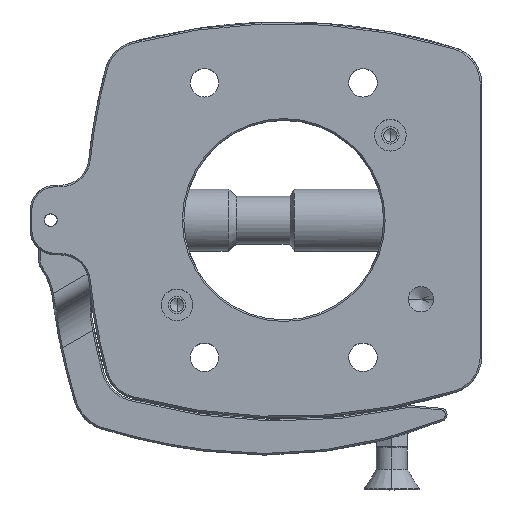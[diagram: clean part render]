
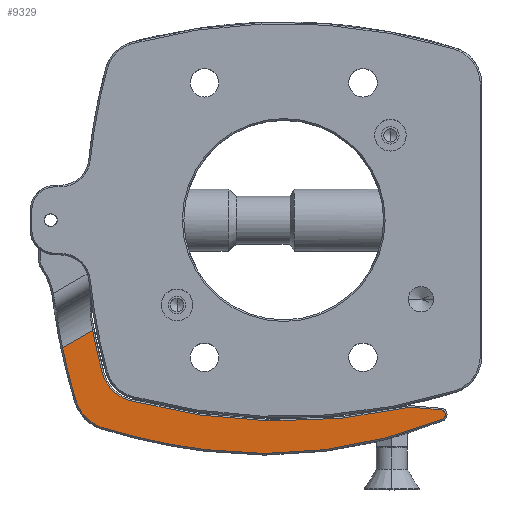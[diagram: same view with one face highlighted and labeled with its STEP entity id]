
A CAD part, top view. The second image highlights one B-rep face of the part: STEP entity #9329.
In plain terms, the highlighted planar face has unit normal (0, 0, 1).
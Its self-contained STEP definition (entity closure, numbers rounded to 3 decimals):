
#8 = AXIS2_PLACEMENT_3D ( 'NONE', #54001, #10019, #29381 ) ;
#195 = FACE_OUTER_BOUND ( 'NONE', #9519, .T. ) ;
#1321 = CIRCLE ( 'NONE', #61318, 184.9 ) ;
#1669 = VERTEX_POINT ( 'NONE', #40368 ) ;
#1713 = LINE ( 'NONE', #15668, #51859 ) ;
#2168 = AXIS2_PLACEMENT_3D ( 'NONE', #53838, #44481, #20276 ) ;
#3217 = DIRECTION ( 'NONE',  ( 0., 0., -1. ) ) ;
#3422 = DIRECTION ( 'NONE',  ( 1., 0., 0. ) ) ;
#3444 = CARTESIAN_POINT ( 'NONE',  ( 121.5, 0., 42.5 ) ) ;
#4270 = DIRECTION ( 'NONE',  ( -1., 0., 0. ) ) ;
#9285 = CIRCLE ( 'NONE', #28232, 12.3 ) ;
#9329 = ADVANCED_FACE ( 'NONE', ( #195 ), #34690, .F. ) ;
#9519 = EDGE_LOOP ( 'NONE', ( #58004, #58794, #50330, #27078, #26495, #16286, #13711, #41003, #10169, #13100 ) ) ;
#9697 = EDGE_CURVE ( 'NONE', #1669, #11575, #9285, .T. ) ;
#10019 = DIRECTION ( 'NONE',  ( 0., 0., -1. ) ) ;
#10169 = ORIENTED_EDGE ( 'NONE', *, *, #55073, .F. ) ;
#10244 = CARTESIAN_POINT ( 'NONE',  ( -45.326, -45.042, 42.5 ) ) ;
#10455 = DIRECTION ( 'NONE',  ( 0., 0., -1. ) ) ;
#10506 = CIRCLE ( 'NONE', #8, 149.5 ) ;
#11344 = EDGE_CURVE ( 'NONE', #11575, #13437, #42627, .T. ) ;
#11575 = VERTEX_POINT ( 'NONE', #44259 ) ;
#12372 = DIRECTION ( 'NONE',  ( -1., 0., 0. ) ) ;
#12592 = VERTEX_POINT ( 'NONE', #58815 ) ;
#13100 = ORIENTED_EDGE ( 'NONE', *, *, #39606, .T. ) ;
#13437 = VERTEX_POINT ( 'NONE', #41268 ) ;
#13711 = ORIENTED_EDGE ( 'NONE', *, *, #31922, .F. ) ;
#14505 = CIRCLE ( 'NONE', #57137, 195.5 ) ;
#14783 = VERTEX_POINT ( 'NONE', #21042 ) ;
#15668 = CARTESIAN_POINT ( 'NONE',  ( 46.478, 26.834, 42.5 ) ) ;
#16286 = ORIENTED_EDGE ( 'NONE', *, *, #59139, .F. ) ;
#17336 = EDGE_CURVE ( 'NONE', #52968, #1669, #1321, .T. ) ;
#17559 = CARTESIAN_POINT ( 'NONE',  ( -69.801, -40.3, 42.5 ) ) ;
#20276 = DIRECTION ( 'NONE',  ( -1., 0., 0. ) ) ;
#21042 = CARTESIAN_POINT ( 'NONE',  ( -25.075, -72.385, 42.5 ) ) ;
#21756 = CIRCLE ( 'NONE', #46895, 12.3 ) ;
#22533 = CARTESIAN_POINT ( 'NONE',  ( 121.5, 0., 42.5 ) ) ;
#23205 = DIRECTION ( 'NONE',  ( 0., 0., -1. ) ) ;
#23223 = VECTOR ( 'NONE', #46175, 1000. ) ;
#24607 = DIRECTION ( 'NONE',  ( -0.866, -0.5, 0. ) ) ;
#25423 = CARTESIAN_POINT ( 'NONE',  ( -65.424, -57.267, 42.5 ) ) ;
#25510 = VERTEX_POINT ( 'NONE', #17559 ) ;
#26495 = ORIENTED_EDGE ( 'NONE', *, *, #53383, .F. ) ;
#26755 = EDGE_CURVE ( 'NONE', #37458, #14783, #10506, .T. ) ;
#27078 = ORIENTED_EDGE ( 'NONE', *, *, #57103, .T. ) ;
#28232 = AXIS2_PLACEMENT_3D ( 'NONE', #10244, #10455, #58870 ) ;
#28835 = AXIS2_PLACEMENT_3D ( 'NONE', #3444, #32127, #12372 ) ;
#28881 = VERTEX_POINT ( 'NONE', #25423 ) ;
#29381 = DIRECTION ( 'NONE',  ( -1., 0., 0. ) ) ;
#31017 = DIRECTION ( 'NONE',  ( -1., 0., 0. ) ) ;
#31257 = CARTESIAN_POINT ( 'NONE',  ( -57.267, -65.424, 42.5 ) ) ;
#31491 = CARTESIAN_POINT ( 'NONE',  ( 40.053, -59.01, 42.5 ) ) ;
#31922 = EDGE_CURVE ( 'NONE', #14783, #57987, #14505, .T. ) ;
#32127 = DIRECTION ( 'NONE',  ( 0., 0., -1. ) ) ;
#32561 = CIRCLE ( 'NONE', #28835, 195.5 ) ;
#33379 = CARTESIAN_POINT ( 'NONE',  ( 0., 121.5, 42.5 ) ) ;
#33498 = DIRECTION ( 'NONE',  ( 0., 0., -1. ) ) ;
#34690 = PLANE ( 'NONE',  #2168 ) ;
#35172 = AXIS2_PLACEMENT_3D ( 'NONE', #22533, #3217, #3422 ) ;
#37005 = DIRECTION ( 'NONE',  ( 0., 0., -1. ) ) ;
#37458 = VERTEX_POINT ( 'NONE', #41598 ) ;
#39606 = EDGE_CURVE ( 'NONE', #12592, #52968, #46818, .T. ) ;
#39773 = CIRCLE ( 'NONE', #40621, 1.5 ) ;
#40368 = CARTESIAN_POINT ( 'NONE',  ( -48.556, -56.91, 42.5 ) ) ;
#40621 = AXIS2_PLACEMENT_3D ( 'NONE', #54152, #46069, #31017 ) ;
#41003 = ORIENTED_EDGE ( 'NONE', *, *, #26755, .F. ) ;
#41268 = CARTESIAN_POINT ( 'NONE',  ( -60.297, -34.812, 42.5 ) ) ;
#41598 = CARTESIAN_POINT ( 'NONE',  ( 50.099, -62.736, 42.5 ) ) ;
#42149 = CARTESIAN_POINT ( 'NONE',  ( -53.664, -53.664, 42.5 ) ) ;
#42627 = CIRCLE ( 'NONE', #35172, 185.1 ) ;
#43267 = DIRECTION ( 'NONE',  ( 1., 0., 0. ) ) ;
#44259 = CARTESIAN_POINT ( 'NONE',  ( -57.201, -48.248, 42.5 ) ) ;
#44481 = DIRECTION ( 'NONE',  ( 0., 0., -1. ) ) ;
#46069 = DIRECTION ( 'NONE',  ( 0., 0., -1. ) ) ;
#46175 = DIRECTION ( 'NONE',  ( -0.996, 0.087, 0. ) ) ;
#46818 = LINE ( 'NONE', #59324, #23223 ) ;
#46895 = AXIS2_PLACEMENT_3D ( 'NONE', #42149, #37005, #61239 ) ;
#50330 = ORIENTED_EDGE ( 'NONE', *, *, #11344, .T. ) ;
#51859 = VECTOR ( 'NONE', #24607, 1000. ) ;
#52968 = VERTEX_POINT ( 'NONE', #31491 ) ;
#53383 = EDGE_CURVE ( 'NONE', #28881, #25510, #32561, .T. ) ;
#53838 = CARTESIAN_POINT ( 'NONE',  ( 46.478, 26.834, 42.5 ) ) ;
#54001 = CARTESIAN_POINT ( 'NONE',  ( -5.9, 75.88, 42.5 ) ) ;
#54152 = CARTESIAN_POINT ( 'NONE',  ( 49.537, -61.345, 42.5 ) ) ;
#55073 = EDGE_CURVE ( 'NONE', #12592, #37458, #39773, .T. ) ;
#57103 = EDGE_CURVE ( 'NONE', #13437, #25510, #1713, .T. ) ;
#57137 = AXIS2_PLACEMENT_3D ( 'NONE', #33379, #23205, #4270 ) ;
#57987 = VERTEX_POINT ( 'NONE', #31257 ) ;
#58004 = ORIENTED_EDGE ( 'NONE', *, *, #17336, .T. ) ;
#58794 = ORIENTED_EDGE ( 'NONE', *, *, #9697, .T. ) ;
#58815 = CARTESIAN_POINT ( 'NONE',  ( 49.668, -59.851, 42.5 ) ) ;
#58870 = DIRECTION ( 'NONE',  ( 1., 0., 0. ) ) ;
#59139 = EDGE_CURVE ( 'NONE', #57987, #28881, #21756, .T. ) ;
#59324 = CARTESIAN_POINT ( 'NONE',  ( 49.668, -59.851, 42.5 ) ) ;
#61239 = DIRECTION ( 'NONE',  ( -1., 0., 0. ) ) ;
#61318 = AXIS2_PLACEMENT_3D ( 'NONE', #62582, #33498, #43267 ) ;
#62582 = CARTESIAN_POINT ( 'NONE',  ( 0., 121.5, 42.5 ) ) ;
